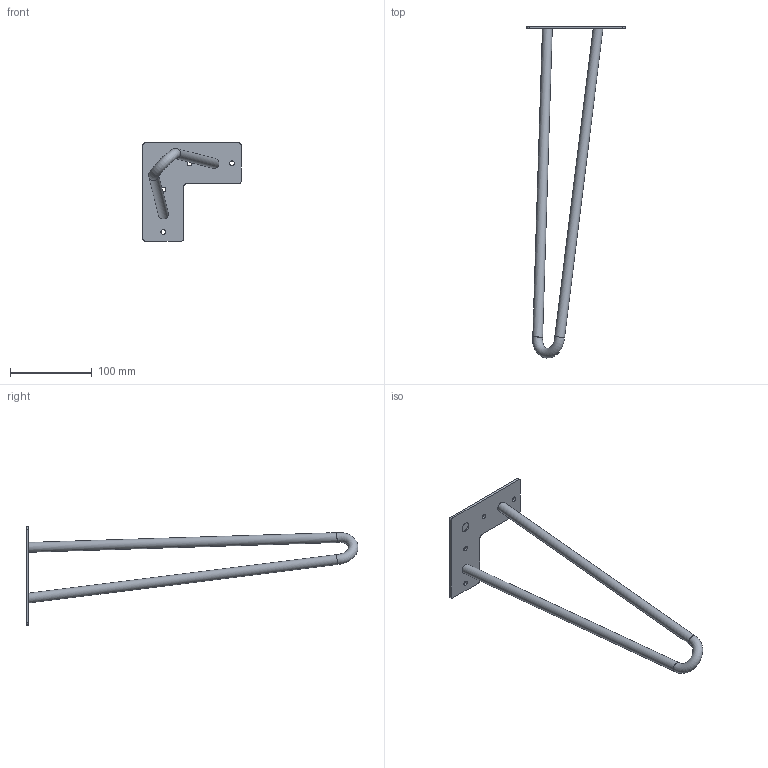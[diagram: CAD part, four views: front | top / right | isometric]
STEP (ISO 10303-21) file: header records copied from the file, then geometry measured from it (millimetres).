
FILE_DESCRIPTION(/* description */ (''),/* implementation_level */ '2;1');
FILE_NAME(/* name */ 'D:\$WorkingFolder\Designs\Meblowka\Nóżki meblowe\NM-ARTO\NM-ARTO-..-.R...-20M\NM-ARTO-12-2R406-20M.stp',/* time_stamp */ '2020-11-09T12:00:14+01:00',/* author */ ('ElizaL'),/* organization */ (''),/* preprocessor_version */ 'ST-DEVELOPER v18.1',/* originating_system */ 'Autodesk Inventor 2020',/* authorisation */ '');
FILE_SCHEMA (('AUTOMOTIVE_DESIGN { 1 0 10303 214 3 1 1 }'));
Length unit declared in the file: millimetre
Products named in the file (1): NM-ARTO-12-2R406-20M
Bounding box: 120 x 405.9 x 120 mm (x, y, z)
Volume: 120949.9 mm3; surface area: 51904.3 mm2
Topology: 2 solids, 2 shells, 33 faces, 88 edges, 62 vertices
Faces by surface type: cylinder 19, plane 13, torus 1
Full cylindrical faces by diameter (mm): 6 x4, 12 x7
Entity records: 1167 total; most frequent: CARTESIAN_POINT 232, DIRECTION 201, ORIENTED_EDGE 176, EDGE_CURVE 88, AXIS2_PLACEMENT_3D 83, VERTEX_POINT 62, EDGE_LOOP 44, CIRCLE 41
